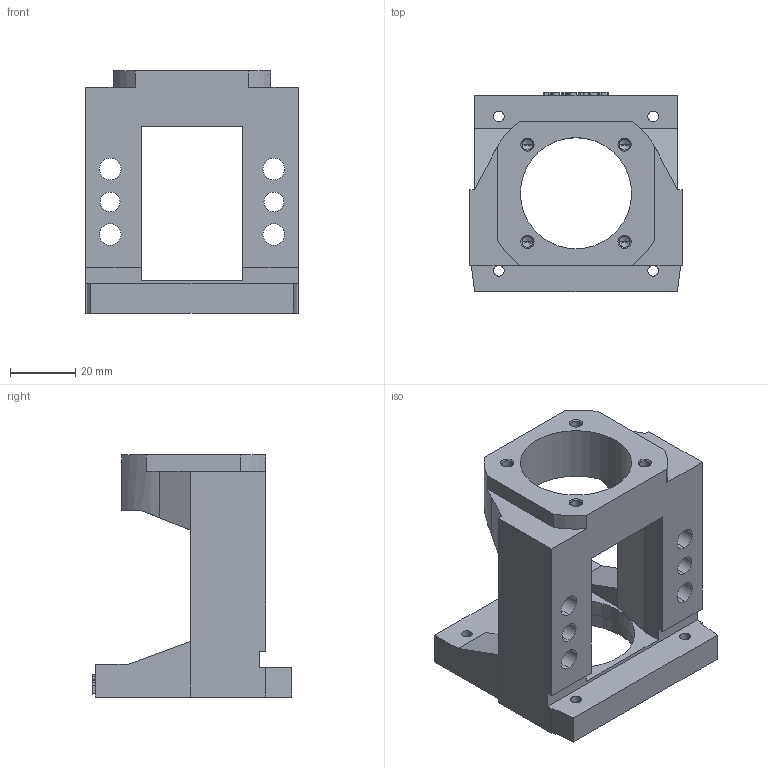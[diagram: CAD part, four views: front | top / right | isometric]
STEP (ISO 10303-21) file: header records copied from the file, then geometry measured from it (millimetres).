
FILE_DESCRIPTION((''),'2;1');
FILE_NAME('M60C-FK10-A','2020-08-24T',('Administrator'),(''),'PRO/ENGINEER BY PARAMETRIC TECHNOLOGY CORPORATION, 2010280','PRO/ENGINEER BY PARAMETRIC TECHNOLOGY CORPORATION, 2010280','');
FILE_SCHEMA(('CONFIG_CONTROL_DESIGN'));
Length unit declared in the file: millimetre
Products named in the file (1): M60C-FK10-A
Bounding box: 65 x 61 x 74 mm (x, y, z)
Volume: 82562.7 mm3; surface area: 27034 mm2
Topology: 1 solids, 1 shells, 238 faces, 639 edges, 415 vertices
Faces by surface type: plane 118, cylinder 52, extrusion 44, cone 24
Entity records: 8021 total; most frequent: CARTESIAN_POINT 2073, ORIENTED_EDGE 1262, DIRECTION 1098, EDGE_CURVE 631, VECTOR 456, VERTEX_POINT 415, LINE 412, AXIS2_PLACEMENT_3D 321
